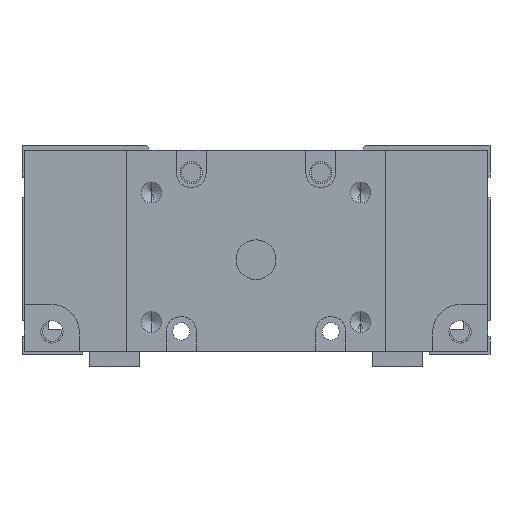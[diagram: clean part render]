
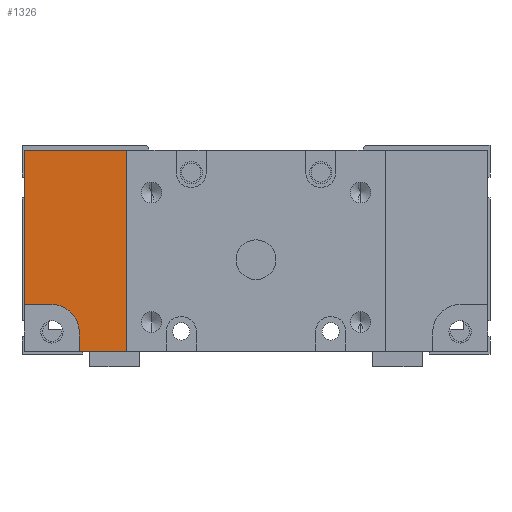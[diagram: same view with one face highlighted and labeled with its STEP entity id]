
A CAD part, front view. The second image highlights one B-rep face of the part: STEP entity #1326.
In plain terms, the highlighted planar face has unit normal (0, -1, 0).
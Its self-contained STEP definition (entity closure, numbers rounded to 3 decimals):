
#266 = VERTEX_POINT ( 'NONE', #2808 ) ;
#340 = VERTEX_POINT ( 'NONE', #2890 ) ;
#346 = EDGE_CURVE ( 'NONE', #266, #340, #2928, .T. ) ;
#548 = VERTEX_POINT ( 'NONE', #3272 ) ;
#570 = EDGE_CURVE ( 'NONE', #548, #266, #3303, .T. ) ;
#598 = EDGE_CURVE ( 'NONE', #609, #608, #3334, .T. ) ;
#608 = VERTEX_POINT ( 'NONE', #3352 ) ;
#609 = VERTEX_POINT ( 'NONE', #3404 ) ;
#1260 = VERTEX_POINT ( 'NONE', #4418 ) ;
#1261 = ORIENTED_EDGE ( 'NONE', *, *, #1278, .F. ) ;
#1278 = EDGE_CURVE ( 'NONE', #609, #1260, #4451, .T. ) ;
#1304 = ORIENTED_EDGE ( 'NONE', *, *, #1309, .F. ) ;
#1305 = ORIENTED_EDGE ( 'NONE', *, *, #570, .T. ) ;
#1306 = EDGE_CURVE ( 'NONE', #1327, #340, #4488, .T. ) ;
#1308 = ORIENTED_EDGE ( 'NONE', *, *, #1306, .F. ) ;
#1309 = EDGE_CURVE ( 'NONE', #1260, #1327, #4490, .T. ) ;
#1319 = EDGE_LOOP ( 'NONE', ( #1261, #1330, #1329, #1305, #1328, #1308, #1304 ) ) ;
#1321 = EDGE_CURVE ( 'NONE', #608, #548, #4470, .T. ) ;
#1326 = ADVANCED_FACE ( 'NONE', ( #4520 ), #4463, .T. ) ;
#1327 = VERTEX_POINT ( 'NONE', #4521 ) ;
#1328 = ORIENTED_EDGE ( 'NONE', *, *, #346, .T. ) ;
#1329 = ORIENTED_EDGE ( 'NONE', *, *, #1321, .T. ) ;
#1330 = ORIENTED_EDGE ( 'NONE', *, *, #598, .T. ) ;
#2808 = CARTESIAN_POINT ( 'NONE',  ( -46.5, -31., 20. ) ) ;
#2890 = CARTESIAN_POINT ( 'NONE',  ( -46.5, -31., -11. ) ) ;
#2925 = DIRECTION ( 'NONE',  ( 0., 0., -1. ) ) ;
#2926 = VECTOR ( 'NONE', #2925, 1000. ) ;
#2927 = CARTESIAN_POINT ( 'NONE',  ( -46.5, -31., 20. ) ) ;
#2928 = LINE ( 'NONE', #2927, #2926 ) ;
#3272 = CARTESIAN_POINT ( 'NONE',  ( -26., -31., 20. ) ) ;
#3286 = VECTOR ( 'NONE', #3297, 1000. ) ;
#3297 = DIRECTION ( 'NONE',  ( -1., 0., 0. ) ) ;
#3298 = CARTESIAN_POINT ( 'NONE',  ( -26., -31., 20. ) ) ;
#3303 = LINE ( 'NONE', #3298, #3286 ) ;
#3334 = LINE ( 'NONE', #3369, #3361 ) ;
#3352 = CARTESIAN_POINT ( 'NONE',  ( -26., -31., -20.4 ) ) ;
#3361 = VECTOR ( 'NONE', #3368, 1000. ) ;
#3368 = DIRECTION ( 'NONE',  ( 1., 0., 0. ) ) ;
#3369 = CARTESIAN_POINT ( 'NONE',  ( -46.5, -31., -20.4 ) ) ;
#3404 = CARTESIAN_POINT ( 'NONE',  ( -35.5, -31., -20.4 ) ) ;
#4418 = CARTESIAN_POINT ( 'NONE',  ( -35.5, -31., -16.5 ) ) ;
#4448 = DIRECTION ( 'NONE',  ( 0., 0., 1. ) ) ;
#4449 = VECTOR ( 'NONE', #4448, 1000. ) ;
#4450 = CARTESIAN_POINT ( 'NONE',  ( -35.5, -31., -16.5 ) ) ;
#4451 = LINE ( 'NONE', #4450, #4449 ) ;
#4463 = PLANE ( 'NONE',  #4516 ) ;
#4468 = DIRECTION ( 'NONE',  ( 0., 0., 1. ) ) ;
#4469 = CARTESIAN_POINT ( 'NONE',  ( -26., -31., -20.4 ) ) ;
#4470 = LINE ( 'NONE', #4469, #4522 ) ;
#4474 = CARTESIAN_POINT ( 'NONE',  ( -26., -31., -20.4 ) ) ;
#4480 = DIRECTION ( 'NONE',  ( 0., 0., 1. ) ) ;
#4481 = DIRECTION ( 'NONE',  ( 0., -1., 0. ) ) ;
#4482 = CARTESIAN_POINT ( 'NONE',  ( -41., -31., -16.5 ) ) ;
#4483 = AXIS2_PLACEMENT_3D ( 'NONE', #4482, #4481, #4480 ) ;
#4485 = DIRECTION ( 'NONE',  ( -1., 0., 0. ) ) ;
#4486 = VECTOR ( 'NONE', #4485, 1000. ) ;
#4487 = CARTESIAN_POINT ( 'NONE',  ( -41., -31., -11. ) ) ;
#4488 = LINE ( 'NONE', #4487, #4486 ) ;
#4490 = CIRCLE ( 'NONE', #4483, 5.5 ) ;
#4506 = DIRECTION ( 'NONE',  ( 0., 0., -1. ) ) ;
#4507 = DIRECTION ( 'NONE',  ( 0., -1., 0. ) ) ;
#4516 = AXIS2_PLACEMENT_3D ( 'NONE', #4474, #4507, #4506 ) ;
#4520 = FACE_OUTER_BOUND ( 'NONE', #1319, .T. ) ;
#4521 = CARTESIAN_POINT ( 'NONE',  ( -41., -31., -11. ) ) ;
#4522 = VECTOR ( 'NONE', #4468, 1000. ) ;
